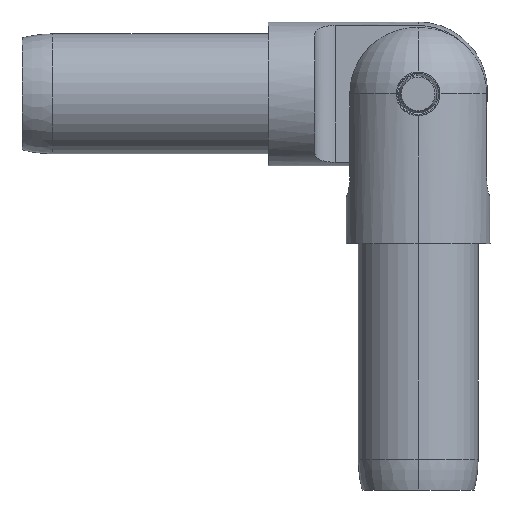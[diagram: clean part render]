
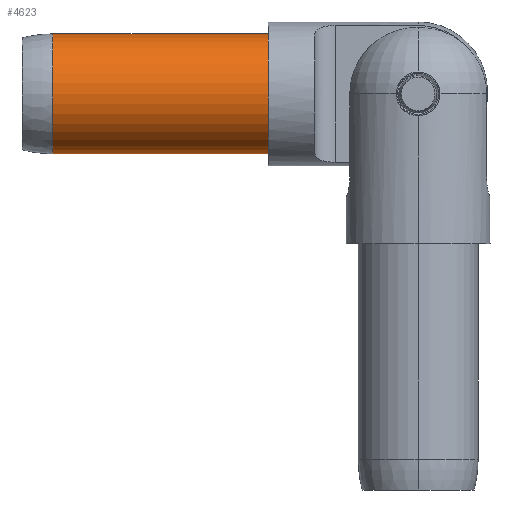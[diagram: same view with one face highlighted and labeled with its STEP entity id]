
A CAD part, front view. The second image highlights one B-rep face of the part: STEP entity #4623.
In plain terms, the highlighted cylindrical face has radius 9.271 mm (diameter 18.542 mm), a partial arc.
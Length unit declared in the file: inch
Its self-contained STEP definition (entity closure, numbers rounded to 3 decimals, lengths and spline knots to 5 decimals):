
#15 = CARTESIAN_POINT ( 'NONE',  ( -0.75, 0., -0.365 ) ) ;
#193 = VERTEX_POINT ( 'NONE', #1024 ) ;
#309 = VERTEX_POINT ( 'NONE', #8431 ) ;
#493 = VERTEX_POINT ( 'NONE', #15 ) ;
#715 = CARTESIAN_POINT ( 'NONE',  ( -0.75, 0., 0. ) ) ;
#926 = VECTOR ( 'NONE', #1499, 39.37008 ) ;
#1024 = CARTESIAN_POINT ( 'NONE',  ( -0.75, 0., 0.365 ) ) ;
#1499 = DIRECTION ( 'NONE',  ( -1., 0., 0. ) ) ;
#1608 = VERTEX_POINT ( 'NONE', #11744 ) ;
#1659 = AXIS2_PLACEMENT_3D ( 'NONE', #715, #8255, #1919 ) ;
#1919 = DIRECTION ( 'NONE',  ( 0., 0., 1. ) ) ;
#3278 = CARTESIAN_POINT ( 'NONE',  ( -2.0625, 0., 0. ) ) ;
#3473 = FACE_OUTER_BOUND ( 'NONE', #7614, .T. ) ;
#3841 = EDGE_CURVE ( 'NONE', #193, #309, #11601, .T. ) ;
#4457 = DIRECTION ( 'NONE',  ( 0., 0., 1. ) ) ;
#4468 = ORIENTED_EDGE ( 'NONE', *, *, #3841, .T. ) ;
#4623 = ADVANCED_FACE ( 'NONE', ( #3473 ), #12455, .T. ) ;
#5515 = EDGE_CURVE ( 'NONE', #493, #1608, #10013, .T. ) ;
#6488 = CARTESIAN_POINT ( 'NONE',  ( -2.25, 0., 0. ) ) ;
#6528 = DIRECTION ( 'NONE',  ( -1., 0., 0. ) ) ;
#6773 = AXIS2_PLACEMENT_3D ( 'NONE', #3278, #10306, #4457 ) ;
#7614 = EDGE_LOOP ( 'NONE', ( #12940, #11033, #4468, #8962 ) ) ;
#7619 = CIRCLE ( 'NONE', #6773, 0.365 ) ;
#8241 = AXIS2_PLACEMENT_3D ( 'NONE', #6488, #6528, #8454 ) ;
#8255 = DIRECTION ( 'NONE',  ( -1., 0., 0. ) ) ;
#8363 = EDGE_CURVE ( 'NONE', #493, #193, #12897, .T. ) ;
#8431 = CARTESIAN_POINT ( 'NONE',  ( -2.0625, 0., 0.365 ) ) ;
#8454 = DIRECTION ( 'NONE',  ( 0., 0., 1. ) ) ;
#8878 = CARTESIAN_POINT ( 'NONE',  ( -2.25, 0., 0.365 ) ) ;
#8962 = ORIENTED_EDGE ( 'NONE', *, *, #12141, .F. ) ;
#9035 = CARTESIAN_POINT ( 'NONE',  ( -2.25, 0., -0.365 ) ) ;
#10013 = LINE ( 'NONE', #9035, #12573 ) ;
#10306 = DIRECTION ( 'NONE',  ( -1., 0., 0. ) ) ;
#10940 = DIRECTION ( 'NONE',  ( -1., 0., 0. ) ) ;
#11033 = ORIENTED_EDGE ( 'NONE', *, *, #8363, .T. ) ;
#11601 = LINE ( 'NONE', #8878, #926 ) ;
#11744 = CARTESIAN_POINT ( 'NONE',  ( -2.0625, 0., -0.365 ) ) ;
#12141 = EDGE_CURVE ( 'NONE', #1608, #309, #7619, .T. ) ;
#12455 = CYLINDRICAL_SURFACE ( 'NONE', #8241, 0.365 ) ;
#12573 = VECTOR ( 'NONE', #10940, 39.37008 ) ;
#12897 = CIRCLE ( 'NONE', #1659, 0.365 ) ;
#12940 = ORIENTED_EDGE ( 'NONE', *, *, #5515, .F. ) ;
